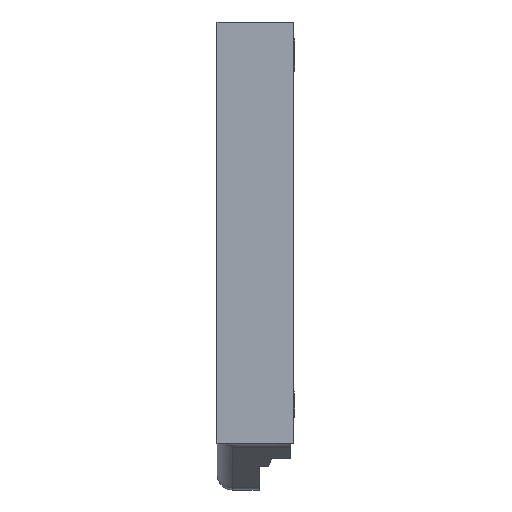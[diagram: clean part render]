
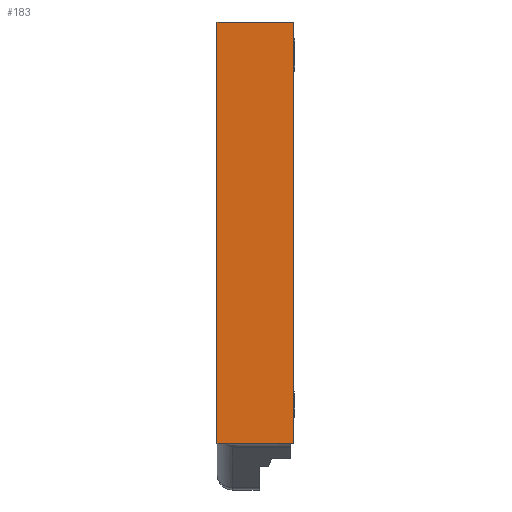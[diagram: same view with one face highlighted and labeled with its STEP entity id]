
A CAD part, left-side view. The second image highlights one B-rep face of the part: STEP entity #183.
In plain terms, the highlighted planar face has unit normal (-1, 0, 0).
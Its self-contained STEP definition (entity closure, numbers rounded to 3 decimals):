
#28 = ORIENTED_EDGE ( 'NONE', *, *, #4053, .F. ) ;
#55 = EDGE_LOOP ( 'NONE', ( #4365, #4318, #75, #28 ) ) ;
#75 = ORIENTED_EDGE ( 'NONE', *, *, #4049, .F. ) ;
#158 = VERTEX_POINT ( 'NONE', #3340 ) ;
#183 = ADVANCED_FACE ( 'NONE', ( #1705 ), #3380, .F. ) ;
#446 = CARTESIAN_POINT ( 'NONE',  ( -2.15, 0.01, 2.3 ) ) ;
#465 = CARTESIAN_POINT ( 'NONE',  ( -2.15, 0.5, 2.6 ) ) ;
#466 = DIRECTION ( 'NONE',  ( 0., -1., 0. ) ) ;
#469 = CARTESIAN_POINT ( 'NONE',  ( -2.15, 0.5, -0.1 ) ) ;
#471 = DIRECTION ( 'NONE',  ( 0., -1., 0. ) ) ;
#472 = DIRECTION ( 'NONE',  ( 0., 0., -1. ) ) ;
#473 = CARTESIAN_POINT ( 'NONE',  ( -2.15, 0.5, 2.3 ) ) ;
#474 = DIRECTION ( 'NONE',  ( 0., 0., 1. ) ) ;
#1562 = VERTEX_POINT ( 'NONE', #2365 ) ;
#1578 = VERTEX_POINT ( 'NONE', #2381 ) ;
#1622 = VERTEX_POINT ( 'NONE', #2425 ) ;
#1705 = FACE_OUTER_BOUND ( 'NONE', #55, .T. ) ;
#2365 = CARTESIAN_POINT ( 'NONE',  ( -2.15, 0.01, 2.6 ) ) ;
#2381 = CARTESIAN_POINT ( 'NONE',  ( -2.15, 0.01, -0.1 ) ) ;
#2425 = CARTESIAN_POINT ( 'NONE',  ( -2.15, 0.5, 2.6 ) ) ;
#2928 = LINE ( 'NONE', #446, #2941 ) ;
#2932 = LINE ( 'NONE', #465, #2935 ) ;
#2935 = VECTOR ( 'NONE', #466, 1000. ) ;
#2936 = LINE ( 'NONE', #469, #2939 ) ;
#2939 = VECTOR ( 'NONE', #471, 1000. ) ;
#2940 = LINE ( 'NONE', #473, #2943 ) ;
#2941 = VECTOR ( 'NONE', #472, 1000. ) ;
#2943 = VECTOR ( 'NONE', #474, 1000. ) ;
#3340 = CARTESIAN_POINT ( 'NONE',  ( -2.15, 0.5, -0.1 ) ) ;
#3373 = CARTESIAN_POINT ( 'NONE',  ( -2.15, 0.01, 2.3 ) ) ;
#3380 = PLANE ( 'NONE',  #4229 ) ;
#3382 = DIRECTION ( 'NONE',  ( 1., 0., 0. ) ) ;
#3383 = DIRECTION ( 'NONE',  ( 0., 0., -1. ) ) ;
#4049 = EDGE_CURVE ( 'NONE', #1622, #1562, #2932, .T. ) ;
#4051 = EDGE_CURVE ( 'NONE', #158, #1578, #2936, .T. ) ;
#4052 = EDGE_CURVE ( 'NONE', #1562, #1578, #2928, .T. ) ;
#4053 = EDGE_CURVE ( 'NONE', #158, #1622, #2940, .T. ) ;
#4229 = AXIS2_PLACEMENT_3D ( 'NONE', #3373, #3382, #3383 ) ;
#4318 = ORIENTED_EDGE ( 'NONE', *, *, #4052, .F. ) ;
#4365 = ORIENTED_EDGE ( 'NONE', *, *, #4051, .T. ) ;
